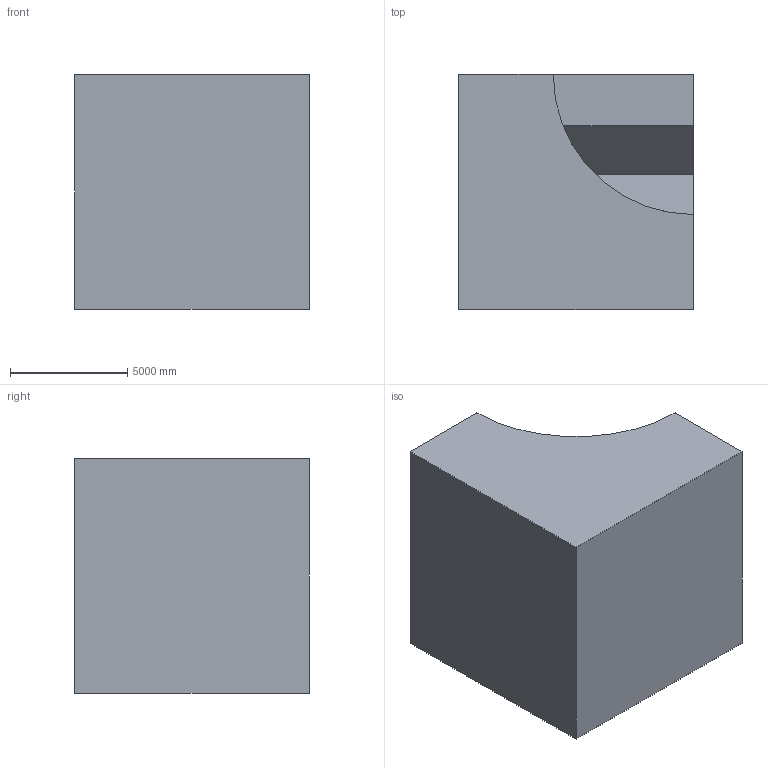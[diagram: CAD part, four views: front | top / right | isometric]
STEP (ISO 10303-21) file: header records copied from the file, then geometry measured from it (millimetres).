
FILE_DESCRIPTION (( 'STEP AP203' ), '1' );
FILE_NAME ('1052.STEP', '2022-08-18T12:34:27', ( 'user' ), ( '' ), 'SwSTEP 2.0', 'SolidWorks 2021', '' );
FILE_SCHEMA (( 'CONFIG_CONTROL_DESIGN' ));
Length unit declared in the file: centimetre
Products named in the file (1): 1052
Bounding box: 10000 x 10000 x 10000 mm (x, y, z)
Volume: 647886004609.2 mm3; surface area: 682617332.5 mm2
Topology: 1 solids, 1 shells, 15 faces, 39 edges, 26 vertices
Faces by surface type: plane 14, cylinder 1
Entity records: 532 total; most frequent: CARTESIAN_POINT 87, ORIENTED_EDGE 78, DIRECTION 71, EDGE_CURVE 39, VECTOR 35, LINE 35, VERTEX_POINT 26, AXIS2_PLACEMENT_3D 18
